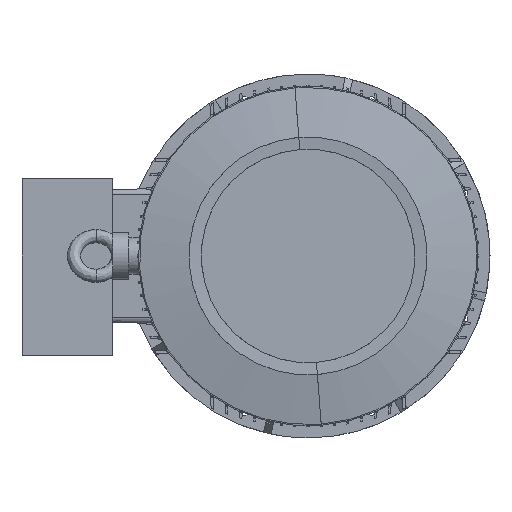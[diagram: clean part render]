
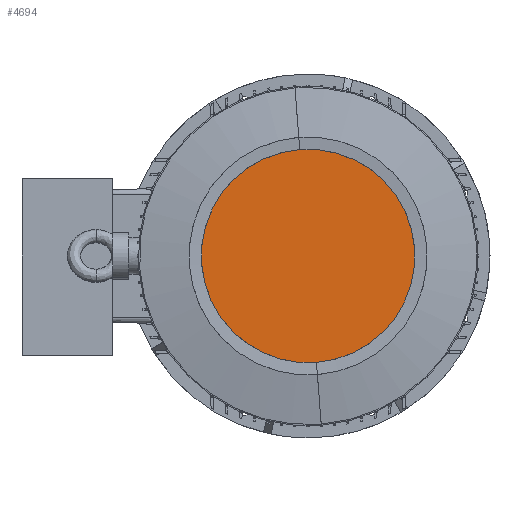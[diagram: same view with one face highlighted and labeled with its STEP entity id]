
A CAD part, left-side view. The second image highlights one B-rep face of the part: STEP entity #4694.
In plain terms, the highlighted planar face has unit normal (-1, 0, 0) as drawn and (1, 0, 0) by its records, which use the part's own axes.
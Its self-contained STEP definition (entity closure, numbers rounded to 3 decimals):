
#1755 = FACE_OUTER_BOUND ( 'NONE', #18803, .T. ) ;
#2888 = AXIS2_PLACEMENT_3D ( 'NONE', #20570, #20560, #20564 ) ;
#2942 = AXIS2_PLACEMENT_3D ( 'NONE', #7152, #7128, #7155 ) ;
#4694 = ADVANCED_FACE ( 'NONE', ( #1755 ), #28840, .F. ) ;
#7128 = DIRECTION ( 'NONE',  ( 1., 0., 0. ) ) ;
#7152 = CARTESIAN_POINT ( 'NONE',  ( 338., 0., 0. ) ) ;
#7155 = DIRECTION ( 'NONE',  ( 0., 0., -1. ) ) ;
#14875 = AXIS2_PLACEMENT_3D ( 'NONE', #28804, #28831, #28838 ) ;
#15769 = EDGE_CURVE ( 'NONE', #19747, #19749, #31882, .T. ) ;
#16792 = CARTESIAN_POINT ( 'NONE',  ( 338., 0., -193.623 ) ) ;
#16810 = CARTESIAN_POINT ( 'NONE',  ( 338., 0., 193.623 ) ) ;
#18803 = EDGE_LOOP ( 'NONE', ( #22710, #22713 ) ) ;
#19747 = VERTEX_POINT ( 'NONE', #16810 ) ;
#19749 = VERTEX_POINT ( 'NONE', #16792 ) ;
#20560 = DIRECTION ( 'NONE',  ( 1., 0., 0. ) ) ;
#20564 = DIRECTION ( 'NONE',  ( 0., 0., -1. ) ) ;
#20570 = CARTESIAN_POINT ( 'NONE',  ( 338., 0., 0. ) ) ;
#22710 = ORIENTED_EDGE ( 'NONE', *, *, #30590, .T. ) ;
#22713 = ORIENTED_EDGE ( 'NONE', *, *, #15769, .T. ) ;
#28804 = CARTESIAN_POINT ( 'NONE',  ( 338., 193.623, 0. ) ) ;
#28831 = DIRECTION ( 'NONE',  ( -1., 0., 0. ) ) ;
#28838 = DIRECTION ( 'NONE',  ( 0., 0., 1. ) ) ;
#28840 = PLANE ( 'NONE',  #14875 ) ;
#30590 = EDGE_CURVE ( 'NONE', #19749, #19747, #32013, .T. ) ;
#31882 = CIRCLE ( 'NONE', #2888, 193.623 ) ;
#32013 = CIRCLE ( 'NONE', #2942, 193.623 ) ;
